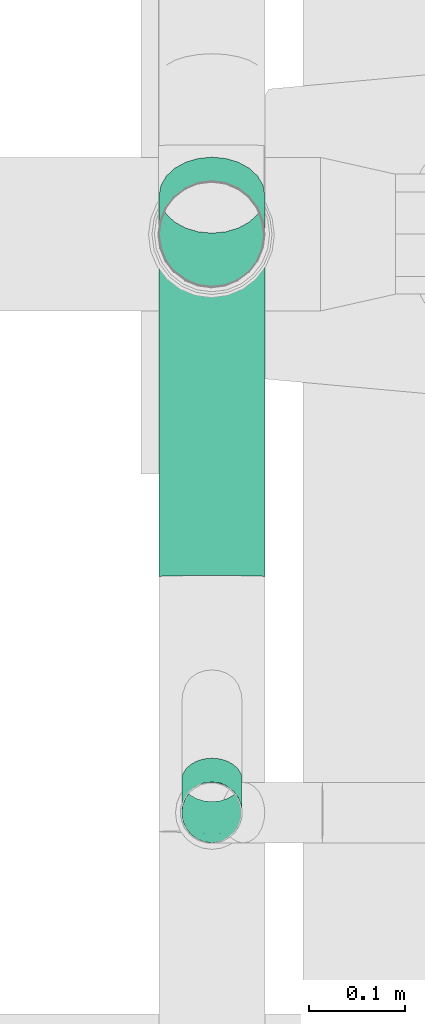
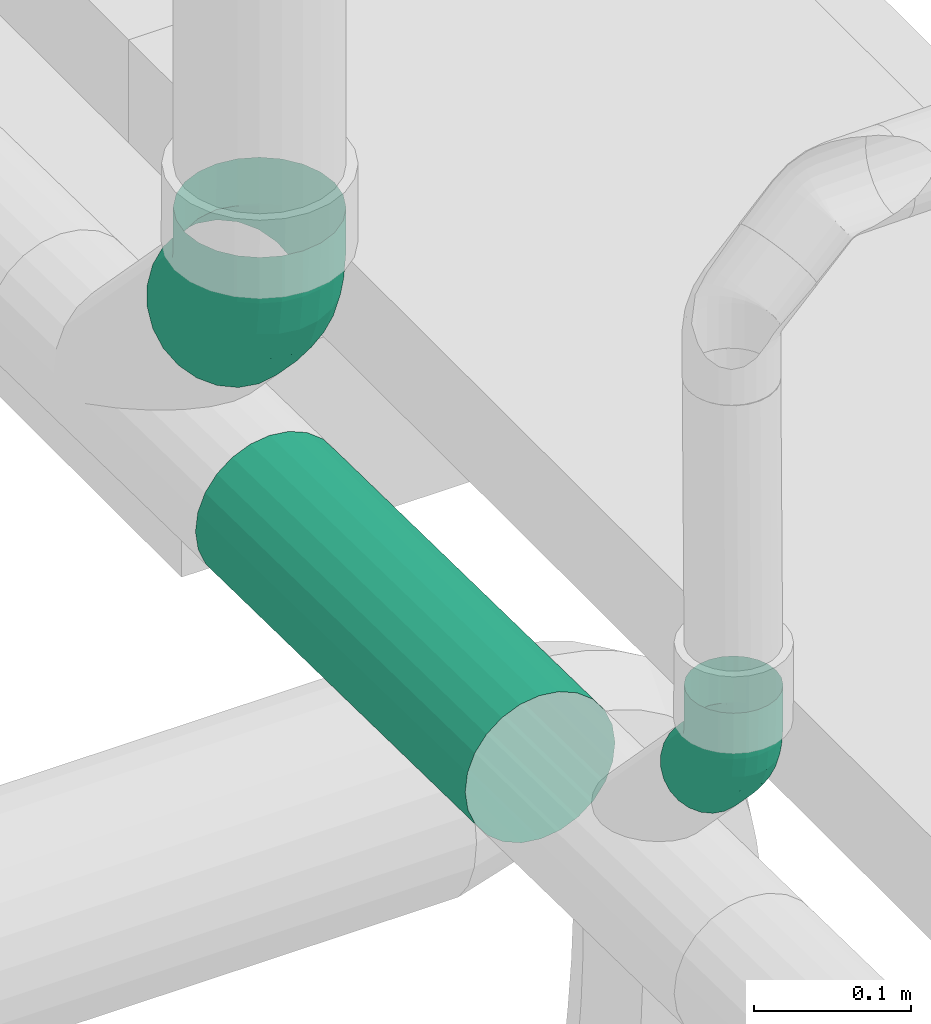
# One storey, part 131 of 374: 2 flow fittings, 1 flow segment.
"""IFC2X3 building model written with IfcOpenShell, lengths in metres."""

from ifc_helpers import new_model, si_unit, direction, origin, place, context, subcontext, project, spatial, open_shell, surface_model, source, transform, mapped, element, save


model = new_model("IFC2X3")

# Units and contexts
model_context = context("Model", 3, precision=1e-05, world=origin(), true_north=direction((-0.4480736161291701, 0.8939966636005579)))
body_context = subcontext(model_context, "Body", "Model", "MODEL_VIEW")
ifc_project = project(units=[si_unit("LENGTHUNIT", "METRE"), si_unit("AREAUNIT", "SQUARE_METRE"), si_unit("VOLUMEUNIT", "CUBIC_METRE"), si_unit("PLANEANGLEUNIT", "RADIAN"), si_unit("THERMODYNAMICTEMPERATUREUNIT", "KELVIN"), si_unit("MASSUNIT", "GRAM", prefix="KILO"), si_unit("TIMEUNIT", "SECOND")], contexts=[model_context])

# Site, building, storey
site_placement = place(None, origin())
site = spatial("IfcSite", under=ifc_project, at=site_placement, Name="Site 1", CompositionType="ELEMENT")
building_placement = place(site_placement, origin())
building = spatial("IfcBuilding", under=site, at=building_placement, Name="Undefined", CompositionType="ELEMENT")
storey_placement = place(building_placement, origin())
storey = spatial("IfcBuildingStorey", under=building, at=storey_placement, Name="Rez de chauss\x8ee", CompositionType="ELEMENT", Elevation=0.0)

# Flow fittings
shared_shape_1 = source(origin(), body_context, "Body", "SurfaceModel", [
    surface_model("IfcFaceBasedSurfaceModel", [(0.0, 0.008223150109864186, -7.105427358e-15), (0.0, 0.0, 0.0), (0.03569999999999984, -3.552713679e-15, 0.0), (0.03570000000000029, 0.008223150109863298, -7.105427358e-15), (0.0, -0.007942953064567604, -0.002128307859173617), (0.03570000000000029, -0.007942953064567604, -0.002128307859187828), (-7.105427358e-15, -0.015064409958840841, -0.006239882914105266), (0.03570000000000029, -0.015064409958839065, -0.006239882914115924), (0.0, -0.020879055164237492, -0.012054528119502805), (0.03570000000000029, -0.02087905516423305, -0.012054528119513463), (0.0, -0.024990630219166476, -0.01917598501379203), (0.03569999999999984, -0.0249906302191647, -0.019175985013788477), (-7.105427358e-15, -0.027118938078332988, -0.027118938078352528), (0.03569999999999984, -0.02711893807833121, -0.027118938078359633), (-1.4210854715e-14, -0.02711893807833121, -0.035342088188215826), (0.03569999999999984, -0.02711893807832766, -0.035342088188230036), (-7.105427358e-15, -0.024990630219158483, -0.04328504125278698), (0.03570000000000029, -0.02499063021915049, -0.04328504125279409), (-7.105427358e-15, -0.02087905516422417, -0.050406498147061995), (0.03570000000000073, -0.020879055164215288, -0.0504064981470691), (-7.105427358e-15, -0.015064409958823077, -0.05622114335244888), (0.03570000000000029, -0.015064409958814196, -0.05622114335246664), (-1.4210854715e-14, -0.007942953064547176, -0.06033271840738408), (0.03569999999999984, -0.007942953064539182, -0.06033271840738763), (0.0, 2.2204460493e-14, -0.06246102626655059), (0.03570000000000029, 3.1974423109e-14, -0.06246102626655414), (0.0, 0.00822315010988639, -0.06246102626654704), (0.03570000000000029, 0.008223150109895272, -0.06246102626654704), (-7.105427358e-15, 0.016166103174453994, -0.06033271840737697), (0.03570000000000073, 0.01616610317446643, -0.060332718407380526), (-7.105427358e-15, 0.02328756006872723, -0.056221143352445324), (0.035700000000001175, 0.023287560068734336, -0.056221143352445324), (0.0, 0.029102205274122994, -0.05040649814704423), (0.03570000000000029, 0.029102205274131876, -0.05040649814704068), (-7.105427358e-15, 0.03321378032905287, -0.043285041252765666), (0.03570000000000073, 0.03321378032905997, -0.04328504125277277), (-7.105427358e-15, 0.03534208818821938, -0.03534208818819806), (0.03570000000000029, 0.03534208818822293, -0.03534208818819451), (-7.105427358e-15, 0.0353420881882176, -0.027118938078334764), (0.03570000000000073, 0.03534208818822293, -0.02711893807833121), (-7.105427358e-15, 0.03321378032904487, -0.019175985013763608), (0.03570000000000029, 0.03321378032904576, -0.019175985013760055), (-7.105427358e-15, 0.02910220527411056, -0.012054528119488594), (0.03570000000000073, 0.02910220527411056, -0.012054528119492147), (-7.105427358e-15, 0.023287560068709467, -0.00623988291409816), (0.03570000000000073, 0.023287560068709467, -0.006239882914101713), (-7.105427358e-15, 0.016166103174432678, -0.0021283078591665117), (0.03570000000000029, 0.0161661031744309, -0.0021283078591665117), (0.051330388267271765, -0.025147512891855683, -0.035601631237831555), (0.05159913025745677, -0.025113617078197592, -0.027382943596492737), (0.06596504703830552, -0.019358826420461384, -0.036363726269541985), (0.06648541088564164, -0.01922540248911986, -0.02815814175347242), (0.0786716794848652, -0.010121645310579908, -0.03757982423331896), (0.07941051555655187, -0.009829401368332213, -0.029395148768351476), (0.050542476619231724, -0.02311858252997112, -0.043531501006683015), (0.0644394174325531, -0.017621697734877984, -0.0442551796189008), (0.07650552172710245, -0.008850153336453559, -0.045409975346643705), (0.049289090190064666, -0.019165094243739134, -0.05063214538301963), (0.06201249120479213, -0.014132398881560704, -0.05129471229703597), (0.0730596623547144, -0.006101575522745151, -0.05235199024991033), (0.047655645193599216, -0.013556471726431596, -0.05641966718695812), (0.058849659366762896, -0.0091287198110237, -0.05700259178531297), (0.06856893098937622, -0.0020632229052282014, -0.057932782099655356), (0.04575345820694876, -0.006674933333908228, -0.060499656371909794), (0.05516646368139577, -0.0029516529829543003, -0.0609898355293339), (0.06333936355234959, 0.002989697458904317, -0.06177202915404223), (0.04371216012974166, 0.001010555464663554, -0.06259406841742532), (0.051213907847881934, 0.003977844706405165, -0.06298471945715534), (0.05772734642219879, 0.008712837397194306, -0.06360809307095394), (0.04167086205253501, 0.00897624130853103, -0.06256017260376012), (0.04726135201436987, 0.011187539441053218, -0.06285129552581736), (0.05211532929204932, 0.01471617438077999, -0.06331584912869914), (0.039768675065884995, 0.01667927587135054, -0.06040027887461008), (0.04357815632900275, 0.01818610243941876, -0.060598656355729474), (0.04688576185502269, 0.020590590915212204, -0.0609152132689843), (0.038135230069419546, 0.023594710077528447, -0.056261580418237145), (0.04041532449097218, 0.024496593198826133, -0.05638031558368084), (0.04239503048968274, 0.02593575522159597, -0.056569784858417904), (0.0368818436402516, 0.029251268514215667, -0.05042612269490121), (0.037988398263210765, 0.029688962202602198, -0.05048374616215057), (0.0389491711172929, 0.03038740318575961, -0.05057569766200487), (0.036093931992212, 0.03326346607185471, -0.043291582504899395), (0.036462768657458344, 0.033409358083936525, -0.043310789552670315), (0.036783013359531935, 0.03364216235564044, -0.04334143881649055), (0.03582519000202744, 0.03535787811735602, -0.03534416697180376), (0.03594240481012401, 0.03540424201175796, -0.035350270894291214), (0.036044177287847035, 0.03547822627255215, -0.035360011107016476), (0.036093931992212, 0.03539177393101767, -0.027125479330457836), (0.036462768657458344, 0.03553766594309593, -0.027144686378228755), (0.036783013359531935, 0.035770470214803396, -0.027175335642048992), (0.0368818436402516, 0.03336284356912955, -0.019195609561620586), (0.037988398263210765, 0.03380053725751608, -0.019253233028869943), (0.0389491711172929, 0.034498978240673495, -0.019345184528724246), (0.038135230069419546, 0.02940935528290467, -0.012094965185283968), (0.04041532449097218, 0.030311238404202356, -0.012213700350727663), (0.04239503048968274, 0.03175040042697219, -0.012403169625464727), (0.039768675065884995, 0.02380073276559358, -0.006307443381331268), (0.04357815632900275, 0.025307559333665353, -0.006505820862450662), (0.04688576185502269, 0.027712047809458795, -0.00682237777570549), (0.04167086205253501, 0.01691919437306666, -0.0022274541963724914), (0.04726135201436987, 0.0191304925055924, -0.0025185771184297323), (0.05211532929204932, 0.02265912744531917, -0.002983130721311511), (0.04371216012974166, 0.009233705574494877, -0.00013304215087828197), (0.051213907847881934, 0.012200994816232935, -0.0005236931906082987), (0.05772734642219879, 0.01693598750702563, -0.0011470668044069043), (0.04575345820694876, 0.0012680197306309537, -0.00016693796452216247), (0.05516646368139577, 0.004991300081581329, -0.0006571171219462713), (0.06333936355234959, 0.010932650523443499, -0.0014393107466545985), (0.047655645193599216, -0.006435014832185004, -0.00232683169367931), (0.058849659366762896, -0.0020072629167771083, -0.00290975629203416), (0.06856893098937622, 0.0050582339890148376, -0.003839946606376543), (0.049289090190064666, -0.01335044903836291, -0.006465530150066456), (0.06201249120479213, -0.00831775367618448, -0.0071280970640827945), (0.0730596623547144, -0.0002869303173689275, -0.008185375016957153), (0.050542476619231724, -0.019007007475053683, -0.012300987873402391), (0.0644394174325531, -0.013510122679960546, -0.013024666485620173), (0.07650552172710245, -0.004738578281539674, -0.014179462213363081), (0.051330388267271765, -0.023019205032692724, -0.019435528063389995), (0.06596504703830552, -0.017230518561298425, -0.020197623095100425), (0.0786716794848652, -0.007993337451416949, -0.0214137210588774), (0.10456754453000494, 0.01424237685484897, -0.040787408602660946), (0.1053063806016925, 0.014534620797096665, -0.03260273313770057), (0.10240138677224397, 0.015513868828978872, -0.0486175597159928), (0.09895552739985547, 0.018262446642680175, -0.05555957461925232), (0.09446479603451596, 0.022300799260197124, -0.06114036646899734), (0.08923522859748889, 0.027353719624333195, -0.06497961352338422), (0.08362321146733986, 0.033076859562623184, -0.06681567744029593), (0.07801119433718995, 0.03908019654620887, -0.06652343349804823), (0.07278162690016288, 0.04495461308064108, -0.06412279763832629), (0.06829089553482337, 0.0502997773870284, -0.059777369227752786), (0.06484503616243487, 0.05475142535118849, -0.05378328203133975), (0.06267887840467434, 0.058006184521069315, -0.04654902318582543), (0.061940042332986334, 0.05984224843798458, -0.03856759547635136), (0.06267887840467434, 0.060134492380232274, -0.030382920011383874), (0.06484503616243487, 0.058863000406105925, -0.022552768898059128), (0.06829089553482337, 0.05611442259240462, -0.015610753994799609), (0.07278162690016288, 0.05207606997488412, -0.010029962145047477), (0.07801119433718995, 0.04702314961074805, -0.0061907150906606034), (0.08362321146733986, 0.04130000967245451, -0.004354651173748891), (0.08923522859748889, 0.03529667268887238, -0.0046468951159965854), (0.09446479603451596, 0.029422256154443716, -0.00704753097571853), (0.09895552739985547, 0.024077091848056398, -0.01139295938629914), (0.10240138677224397, 0.019625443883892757, -0.017387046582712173), (0.10456754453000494, 0.01637068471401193, -0.024621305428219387)], [open_shell([[[0, 1, 2, 3]], [[1, 4, 5, 2]], [[4, 6, 7, 5]], [[6, 8, 9, 7]], [[8, 10, 11, 9]], [[10, 12, 13, 11]], [[12, 14, 15, 13]], [[14, 16, 17, 15]], [[16, 18, 19, 17]], [[18, 20, 21, 19]], [[20, 22, 23, 21]], [[22, 24, 25, 23]], [[24, 26, 27, 25]], [[26, 28, 29, 27]], [[28, 30, 31, 29]], [[30, 32, 33, 31]], [[32, 34, 35, 33]], [[34, 36, 37, 35]], [[36, 38, 39, 37]], [[38, 40, 41, 39]], [[40, 42, 43, 41]], [[42, 44, 45, 43]], [[44, 46, 47, 45]], [[46, 0, 3, 47]], [[13, 15, 48, 49]], [[49, 48, 50, 51]], [[51, 50, 52, 53]], [[15, 17, 54, 48]], [[48, 54, 55, 50]], [[50, 55, 56, 52]], [[17, 19, 57, 54]], [[54, 57, 58, 55]], [[55, 58, 59, 56]], [[19, 21, 60, 57]], [[57, 60, 61, 58]], [[58, 61, 62, 59]], [[21, 23, 63, 60]], [[60, 63, 64, 61]], [[61, 64, 65, 62]], [[23, 25, 66, 63]], [[63, 66, 67, 64]], [[64, 67, 68, 65]], [[25, 27, 69, 66]], [[66, 69, 70, 67]], [[67, 70, 71, 68]], [[27, 29, 72, 69]], [[69, 72, 73, 70]], [[70, 73, 74, 71]], [[29, 31, 75, 72]], [[72, 75, 76, 73]], [[73, 76, 77, 74]], [[31, 33, 78, 75]], [[75, 78, 79, 76]], [[76, 79, 80, 77]], [[33, 35, 81, 78]], [[78, 81, 82, 79]], [[79, 82, 83, 80]], [[35, 37, 84, 81]], [[81, 84, 85, 82]], [[82, 85, 86, 83]], [[37, 39, 87, 84]], [[84, 87, 88, 85]], [[85, 88, 89, 86]], [[39, 41, 90, 87]], [[87, 90, 91, 88]], [[88, 91, 92, 89]], [[41, 43, 93, 90]], [[90, 93, 94, 91]], [[91, 94, 95, 92]], [[43, 45, 96, 93]], [[93, 96, 97, 94]], [[94, 97, 98, 95]], [[45, 47, 99, 96]], [[96, 99, 100, 97]], [[97, 100, 101, 98]], [[47, 3, 102, 99]], [[99, 102, 103, 100]], [[100, 103, 104, 101]], [[3, 2, 105, 102]], [[102, 105, 106, 103]], [[103, 106, 107, 104]], [[2, 5, 108, 105]], [[105, 108, 109, 106]], [[106, 109, 110, 107]], [[5, 7, 111, 108]], [[108, 111, 112, 109]], [[109, 112, 113, 110]], [[7, 9, 114, 111]], [[111, 114, 115, 112]], [[112, 115, 116, 113]], [[9, 11, 117, 114]], [[114, 117, 118, 115]], [[115, 118, 119, 116]], [[11, 13, 49, 117]], [[117, 49, 51, 118]], [[118, 51, 53, 119]], [[53, 52, 120, 121]], [[52, 56, 122, 120]], [[56, 59, 123, 122]], [[59, 62, 124, 123]], [[62, 65, 125, 124]], [[65, 68, 126, 125]], [[68, 71, 127, 126]], [[71, 74, 128, 127]], [[74, 77, 129, 128]], [[77, 80, 130, 129]], [[80, 83, 131, 130]], [[83, 86, 132, 131]], [[86, 89, 133, 132]], [[89, 92, 134, 133]], [[92, 95, 135, 134]], [[95, 98, 136, 135]], [[98, 101, 137, 136]], [[101, 104, 138, 137]], [[104, 107, 139, 138]], [[107, 110, 140, 139]], [[110, 113, 141, 140]], [[113, 116, 142, 141]], [[116, 119, 143, 142]], [[119, 53, 121, 143]]])]),
])
flow_fitting_1_placement = place(storey_placement, origin())
element("IfcFlowFitting", 1, at=flow_fitting_1_placement, inside=storey, Name="PE-HD coude 45°", ObjectType="PE-HD coude 45°", context=body_context, shape_type="MappedRepresentation", body=[
    mapped(shared_shape_1, transform((57.1044266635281, 12.201862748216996, 4.278995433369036), x_axis=(0.0, 0.008726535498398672, -0.9999619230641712), y_axis=(0.13052619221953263, 0.9914071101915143, 0.008651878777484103), z_axis=(0.9914448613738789, -0.1305212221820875, -0.00113904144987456))),
])
shared_shape_2 = source(origin(), body_context, "Body", "SurfaceModel", [
    surface_model("IfcFaceBasedSurfaceModel", [(0.0, 0.014357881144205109, -3.552713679e-15), (0.0, 0.0, 0.0), (0.0359000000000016, 1.776356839e-15, 0.0), (0.035900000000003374, 0.014357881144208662, 0.0), (0.0, -0.01386864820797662, -0.0037160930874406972), (0.035900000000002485, -0.01386864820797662, -0.003716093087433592), (0.0, -0.026302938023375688, -0.010895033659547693), (0.0359000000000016, -0.026302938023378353, -0.010895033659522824), (0.0, -0.03645549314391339, -0.021047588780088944), (0.035900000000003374, -0.03645549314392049, -0.021047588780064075), (0.0, -0.04363443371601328, -0.033481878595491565), (0.0359000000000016, -0.04363443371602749, -0.03348187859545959), (0.0, -0.04735052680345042, -0.04735052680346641), (0.035900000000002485, -0.04735052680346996, -0.04735052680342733), (0.0, -0.04735052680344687, -0.06170840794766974), (0.0359000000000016, -0.04735052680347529, -0.06170840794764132), (0.0, -0.04363443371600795, -0.07557705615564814), (0.035900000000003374, -0.0436344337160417, -0.07557705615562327), (0.0, -0.03645549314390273, -0.08801134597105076), (0.0359000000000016, -0.03645549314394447, -0.08801134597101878), (0.0, -0.026302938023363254, -0.0981639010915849), (0.035900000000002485, -0.02630293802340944, -0.09816390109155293), (0.0, -0.013868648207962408, -0.1053428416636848), (0.0359000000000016, -0.013868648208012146, -0.10534284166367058), (0.0, 1.5987211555e-14, -0.10905893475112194), (0.035900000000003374, -3.5527136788e-14, -0.10905893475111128), (0.0, 0.014357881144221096, -0.10905893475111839), (0.03590000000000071, 0.014357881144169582, -0.10905893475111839), (0.0, 0.028226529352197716, -0.10534284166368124), (0.0359000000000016, 0.028226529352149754, -0.1053428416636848), (0.0, 0.040660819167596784, -0.0981639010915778), (0.0359000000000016, 0.0406608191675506, -0.09816390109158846), (0.0, 0.05081337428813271, -0.08801134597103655), (0.0359000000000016, 0.05081337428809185, -0.08801134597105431), (0.0, 0.05799231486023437, -0.07557705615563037), (0.0359000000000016, 0.05799231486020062, -0.07557705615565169), (0.0, 0.06170840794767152, -0.06170840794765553), (0.035900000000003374, 0.061708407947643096, -0.06170840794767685), (0.0, 0.061708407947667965, -0.0473505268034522), (0.0359000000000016, 0.061708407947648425, -0.04735052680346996), (0.0, 0.05799231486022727, -0.033481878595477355), (0.0359000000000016, 0.05799231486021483, -0.03348187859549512), (0.0, 0.050813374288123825, -0.021047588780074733), (0.0359000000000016, 0.05081337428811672, -0.021047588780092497), (0.0, 0.04066081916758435, -0.010895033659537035), (0.0359000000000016, 0.040660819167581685, -0.010895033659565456), (0.0, 0.028226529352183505, -0.0037160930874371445), (0.03590000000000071, 0.028226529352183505, -0.0037160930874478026), (0.06297256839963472, -0.04393592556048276, -0.06215794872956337), (0.06344180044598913, -0.04387674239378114, -0.04780785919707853), (0.08832048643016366, -0.033909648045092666, -0.06347793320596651), (0.08922905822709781, -0.03367668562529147, -0.049150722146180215), (0.11032897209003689, -0.017910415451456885, -0.06558427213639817), (0.11161900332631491, -0.01740014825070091, -0.051293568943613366), (0.061596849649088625, -0.04039334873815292, -0.07600375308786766), (0.0856566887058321, -0.03087656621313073, -0.07725666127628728), (0.10654679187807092, -0.015690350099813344, -0.07925596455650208), (0.05940839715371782, -0.033490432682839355, -0.08840170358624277), (0.08141919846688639, -0.0247841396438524, -0.08954790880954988), (0.10053021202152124, -0.010891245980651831, -0.09137694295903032), (0.05655635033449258, -0.02369759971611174, -0.09850690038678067), (0.07589679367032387, -0.016047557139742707, -0.09951404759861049), (0.0926892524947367, -0.003840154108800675, -0.10112118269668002), (0.05323507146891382, -0.01168221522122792, -0.10563069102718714), (0.06946581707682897, -0.005262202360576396, -0.10647590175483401), (0.08355826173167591, 0.0049824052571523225, -0.10782462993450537), (0.04967090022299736, 0.0017368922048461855, -0.10928760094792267), (0.0625645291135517, 0.006836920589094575, -0.10995903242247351), (0.07375950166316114, 0.014975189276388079, -0.11103045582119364), (0.04610672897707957, 0.015645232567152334, -0.1092284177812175), (0.055663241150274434, 0.019425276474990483, -0.10972607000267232), (0.06396074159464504, 0.025457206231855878, -0.11052018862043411), (0.04278545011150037, 0.02909497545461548, -0.10545717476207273), (0.04923226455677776, 0.03164498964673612, -0.1057928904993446), (0.05482975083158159, 0.03571412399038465, -0.1063286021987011), (0.03993340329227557, 0.04116954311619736, -0.09823087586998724), (0.04370985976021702, 0.04266330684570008, -0.09842753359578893), (0.04698879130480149, 0.04504695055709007, -0.09874134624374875), (0.037744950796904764, 0.05104607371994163, -0.08804198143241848), (0.03947236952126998, 0.05172934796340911, -0.08813193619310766), (0.04097221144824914, 0.052819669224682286, -0.08827547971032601), (0.036369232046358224, 0.058051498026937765, -0.0755848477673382), (0.036808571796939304, 0.05822527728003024, -0.07560772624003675), (0.037190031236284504, 0.05850258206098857, -0.07564423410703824), (0.036369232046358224, 0.061767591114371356, -0.04735831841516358), (0.036808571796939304, 0.061941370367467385, -0.04738119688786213), (0.037190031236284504, 0.062218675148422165, -0.04741770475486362), (0.037744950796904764, 0.05822501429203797, -0.03351251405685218), (0.03947236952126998, 0.058908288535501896, -0.033602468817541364), (0.04097221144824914, 0.059998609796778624, -0.03374601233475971), (0.03993340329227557, 0.05132209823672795, -0.02111456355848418), (0.04370985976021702, 0.05281586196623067, -0.021311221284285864), (0.04698879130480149, 0.05519950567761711, -0.021625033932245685), (0.04278545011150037, 0.04152926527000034, -0.011009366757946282), (0.04923226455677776, 0.04407927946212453, -0.01134508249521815), (0.05482975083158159, 0.04814841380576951, -0.011880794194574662), (0.04610672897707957, 0.029513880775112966, -0.003885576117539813), (0.055663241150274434, 0.03329392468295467, -0.004383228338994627), (0.06396074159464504, 0.03932585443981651, -0.005177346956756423), (0.04967090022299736, 0.016094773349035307, -0.00022866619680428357), (0.0625645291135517, 0.021194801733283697, -0.0009000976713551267), (0.07375950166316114, 0.029333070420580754, -0.001971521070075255), (0.05323507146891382, 0.0021864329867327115, -0.00028784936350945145), (0.06946581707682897, 0.008606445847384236, -0.0011330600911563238), (0.08355826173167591, 0.018851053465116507, -0.0024817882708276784), (0.05655635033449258, -0.011263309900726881, -0.004059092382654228), (0.07589679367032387, -0.0036132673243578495, -0.0050662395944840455), (0.0926892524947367, 0.008594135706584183, -0.006673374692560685), (0.05940839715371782, -0.023337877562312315, -0.011285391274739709), (0.08141919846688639, -0.014631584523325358, -0.012431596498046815), (0.10053021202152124, -0.000738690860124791, -0.01426063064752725), (0.061596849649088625, -0.033214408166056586, -0.021474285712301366), (0.0856566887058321, -0.023697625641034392, -0.022727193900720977), (0.10654679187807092, -0.008511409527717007, -0.02472649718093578), (0.06297256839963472, -0.040219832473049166, -0.03393141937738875), (0.08832048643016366, -0.030193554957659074, -0.035251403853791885), (0.11032897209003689, -0.014194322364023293, -0.03735774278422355), (0.13636991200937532, 0.006590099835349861, -0.06880982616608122), (0.13765994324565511, 0.007100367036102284, -0.054519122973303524), (0.13258773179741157, 0.008810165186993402, -0.08248151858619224), (0.1265711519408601, 0.013609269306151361, -0.09460249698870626), (0.11873019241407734, 0.02066036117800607, -0.10434673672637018), (0.10959920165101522, 0.029482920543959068, -0.11105018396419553), (0.09980044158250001, 0.03947570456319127, -0.1142560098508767), (0.09000168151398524, 0.04995772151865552, -0.11374574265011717), (0.08087069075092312, 0.06021463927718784, -0.10955415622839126), (0.07302973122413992, 0.06954746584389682, -0.1019669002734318), (0.0670131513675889, 0.07732018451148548, -0.09150103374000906), (0.06323097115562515, 0.08300309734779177, -0.0788697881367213), (0.061940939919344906, 0.08620892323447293, -0.06493396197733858), (0.06323097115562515, 0.08671919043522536, -0.050643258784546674), (0.0670131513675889, 0.08449912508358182, -0.036971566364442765), (0.07302973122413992, 0.07970002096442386, -0.02485058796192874), (0.08087069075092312, 0.0726489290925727, -0.01510634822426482), (0.09000168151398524, 0.06382636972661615, -0.008402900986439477), (0.09980044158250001, 0.053833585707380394, -0.005197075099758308), (0.10959920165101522, 0.0433515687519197, -0.005707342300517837), (0.11873019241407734, 0.03309465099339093, -0.009898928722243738), (0.1265711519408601, 0.023761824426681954, -0.017486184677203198), (0.13258773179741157, 0.015989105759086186, -0.02795205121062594), (0.13636991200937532, 0.010306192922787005, -0.0405832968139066)], [open_shell([[[0, 1, 2, 3]], [[1, 4, 5, 2]], [[4, 6, 7, 5]], [[6, 8, 9, 7]], [[8, 10, 11, 9]], [[10, 12, 13, 11]], [[12, 14, 15, 13]], [[14, 16, 17, 15]], [[16, 18, 19, 17]], [[18, 20, 21, 19]], [[20, 22, 23, 21]], [[22, 24, 25, 23]], [[24, 26, 27, 25]], [[26, 28, 29, 27]], [[28, 30, 31, 29]], [[30, 32, 33, 31]], [[32, 34, 35, 33]], [[34, 36, 37, 35]], [[36, 38, 39, 37]], [[38, 40, 41, 39]], [[40, 42, 43, 41]], [[42, 44, 45, 43]], [[44, 46, 47, 45]], [[46, 0, 3, 47]], [[13, 15, 48, 49]], [[49, 48, 50, 51]], [[51, 50, 52, 53]], [[15, 17, 54, 48]], [[48, 54, 55, 50]], [[50, 55, 56, 52]], [[17, 19, 57, 54]], [[54, 57, 58, 55]], [[55, 58, 59, 56]], [[19, 21, 60, 57]], [[57, 60, 61, 58]], [[58, 61, 62, 59]], [[21, 23, 63, 60]], [[60, 63, 64, 61]], [[61, 64, 65, 62]], [[23, 25, 66, 63]], [[63, 66, 67, 64]], [[64, 67, 68, 65]], [[25, 27, 69, 66]], [[66, 69, 70, 67]], [[67, 70, 71, 68]], [[27, 29, 72, 69]], [[69, 72, 73, 70]], [[70, 73, 74, 71]], [[29, 31, 75, 72]], [[72, 75, 76, 73]], [[73, 76, 77, 74]], [[31, 33, 78, 75]], [[75, 78, 79, 76]], [[76, 79, 80, 77]], [[33, 35, 81, 78]], [[78, 81, 82, 79]], [[79, 82, 83, 80]], [[35, 37, 81]], [[81, 37, 82]], [[82, 37, 83]], [[37, 39, 84]], [[37, 84, 85]], [[37, 85, 86]], [[39, 41, 87, 84]], [[84, 87, 88, 85]], [[85, 88, 89, 86]], [[41, 43, 90, 87]], [[87, 90, 91, 88]], [[88, 91, 92, 89]], [[43, 45, 93, 90]], [[90, 93, 94, 91]], [[91, 94, 95, 92]], [[45, 47, 96, 93]], [[93, 96, 97, 94]], [[94, 97, 98, 95]], [[47, 3, 99, 96]], [[96, 99, 100, 97]], [[97, 100, 101, 98]], [[3, 2, 102, 99]], [[99, 102, 103, 100]], [[100, 103, 104, 101]], [[2, 5, 105, 102]], [[102, 105, 106, 103]], [[103, 106, 107, 104]], [[5, 7, 108, 105]], [[105, 108, 109, 106]], [[106, 109, 110, 107]], [[7, 9, 111, 108]], [[108, 111, 112, 109]], [[109, 112, 113, 110]], [[9, 11, 114, 111]], [[111, 114, 115, 112]], [[112, 115, 116, 113]], [[11, 13, 49, 114]], [[114, 49, 51, 115]], [[115, 51, 53, 116]], [[53, 52, 117, 118]], [[52, 56, 119, 117]], [[56, 59, 120, 119]], [[59, 62, 121, 120]], [[62, 65, 122, 121]], [[65, 68, 123, 122]], [[68, 71, 124, 123]], [[71, 74, 125, 124]], [[74, 77, 126, 125]], [[77, 80, 127, 126]], [[80, 83, 128, 127]], [[83, 37, 129, 128]], [[37, 86, 130, 129]], [[86, 89, 131, 130]], [[89, 92, 132, 131]], [[92, 95, 133, 132]], [[95, 98, 134, 133]], [[98, 101, 135, 134]], [[101, 104, 136, 135]], [[104, 107, 137, 136]], [[107, 110, 138, 137]], [[110, 113, 139, 138]], [[113, 116, 140, 139]], [[116, 53, 118, 140]]])]),
])
flow_fitting_2_placement = place(storey_placement, origin())
element("IfcFlowFitting", 2, at=flow_fitting_2_placement, inside=storey, Name="PE-HD coude 45°", ObjectType="PE-HD coude 45°", context=body_context, shape_type="MappedRepresentation", body=[
    mapped(shared_shape_2, transform((57.12712592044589, 12.798267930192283, 4.283965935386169), x_axis=(0.0, 0.008726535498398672, -0.9999619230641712), y_axis=(0.13052619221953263, 0.9914071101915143, 0.008651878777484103), z_axis=(0.9914448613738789, -0.1305212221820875, -0.00113904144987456))),
])

# Flow segment
shared_shape_3 = source(origin(), body_context, "Body", "SurfaceModel", [
    surface_model("IfcFaceBasedSurfaceModel", [(4.526906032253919e-07, 0.014357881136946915, 0.0), (0.0, 0.0, 0.0), (0.3430234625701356, 0.0, 0.0), (0.34302391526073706, 0.014357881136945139, 0.0), (-4.2184048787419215e-07, -0.013868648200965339, -0.003716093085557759), (0.34302304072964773, -0.013868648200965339, -0.003716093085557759), (-7.840831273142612e-07, -0.02630293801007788, -0.010895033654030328), (0.34302267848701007, -0.026302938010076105, -0.010895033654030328), (-1.0620416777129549e-06, -0.03645549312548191, -0.02104758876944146), (0.3430224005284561, -0.03645549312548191, -0.02104758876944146), (-1.2367737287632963e-06, -0.04363443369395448, -0.03348187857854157), (0.34302222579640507, -0.04363443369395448, -0.03348187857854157), (-1.2963715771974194e-06, -0.04735052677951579, -0.04735052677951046), (0.34302216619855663, -0.04735052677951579, -0.04735052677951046), (-1.2367737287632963e-06, -0.04735052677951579, -0.0617084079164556), (0.34302222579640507, -0.04735052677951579, -0.0617084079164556), (-1.0620416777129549e-06, -0.043634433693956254, -0.07557705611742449), (0.3430224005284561, -0.04363443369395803, -0.07557705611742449), (-7.840831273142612e-07, -0.03645549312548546, -0.08801134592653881), (0.34302267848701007, -0.03645549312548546, -0.08801134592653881), (-4.2184048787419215e-07, -0.026302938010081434, -0.09816390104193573), (0.34302304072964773, -0.026302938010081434, -0.09816390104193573), (0.0, -0.013868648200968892, -0.1053428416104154), (0.3430234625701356, -0.013868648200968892, -0.1053428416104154), (4.526906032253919e-07, -5.329070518e-15, -0.10905893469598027), (0.34302391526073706, -5.329070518e-15, -0.10905893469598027), (9.053812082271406e-07, 0.01435788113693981, -0.10905893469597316), (0.34302436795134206, 0.01435788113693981, -0.10905893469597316), (1.3272216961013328e-06, 0.02822652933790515, -0.1053428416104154), (0.34302478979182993, 0.02822652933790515, -0.1053428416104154), (1.689464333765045e-06, 0.04066081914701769, -0.09816390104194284), (0.3430251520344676, 0.04066081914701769, -0.09816390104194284), (1.9674228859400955e-06, 0.050813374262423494, -0.08801134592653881), (0.34302542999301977, 0.050813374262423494, -0.08801134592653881), (2.1421549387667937e-06, 0.05799231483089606, -0.07557705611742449), (0.3430256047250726, 0.05799231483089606, -0.07557705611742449), (2.20175278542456e-06, 0.061708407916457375, -0.0617084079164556), (0.34302566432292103, 0.061708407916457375, -0.0617084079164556), (2.1421549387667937e-06, 0.061708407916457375, -0.04735052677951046), (0.3430256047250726, 0.061708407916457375, -0.04735052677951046), (1.9674228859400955e-06, 0.05799231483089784, -0.03348187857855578), (0.34302542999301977, 0.05799231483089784, -0.03348187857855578), (1.689464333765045e-06, 0.05081337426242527, -0.021047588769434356), (0.3430251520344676, 0.05081337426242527, -0.021047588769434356), (1.3272216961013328e-06, 0.04066081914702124, -0.010895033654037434), (0.34302478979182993, 0.04066081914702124, -0.010895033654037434), (9.053812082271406e-07, 0.028226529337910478, -0.003716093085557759), (0.34302436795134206, 0.0282265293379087, -0.003716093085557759)], [open_shell([[[0, 1, 2, 3]], [[1, 4, 5, 2]], [[4, 6, 7, 5]], [[6, 8, 9, 7]], [[8, 10, 11, 9]], [[10, 12, 13, 11]], [[12, 14, 15, 13]], [[14, 16, 17, 15]], [[16, 18, 19, 17]], [[18, 20, 21, 19]], [[20, 22, 23, 21]], [[22, 24, 25, 23]], [[24, 26, 27, 25]], [[26, 28, 29, 27]], [[28, 30, 31, 29]], [[30, 32, 33, 31]], [[32, 34, 35, 33]], [[34, 36, 37, 35]], [[36, 38, 39, 37]], [[38, 40, 41, 39]], [[40, 42, 43, 41]], [[42, 44, 45, 43]], [[44, 46, 47, 45]], [[46, 0, 3, 47]]])]),
])
flow_segment_placement = place(storey_placement, origin())
element("IfcFlowSegment", 3, at=flow_segment_placement, inside=storey, Name="PE-HD tuyau", ObjectType="PE-HD tuyau", context=body_context, shape_type="MappedRepresentation", body=[
    mapped(shared_shape_3, transform((57.020874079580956, 12.456187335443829, 4.080035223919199), x_axis=(0.0, 0.9998474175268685, -0.01746830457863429), y_axis=(-0.13052619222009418, -0.017318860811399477, -0.991293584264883), z_axis=(-0.9914448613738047, 0.00228007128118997, 0.13050627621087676))),
])

save(model, "model.ifc")
